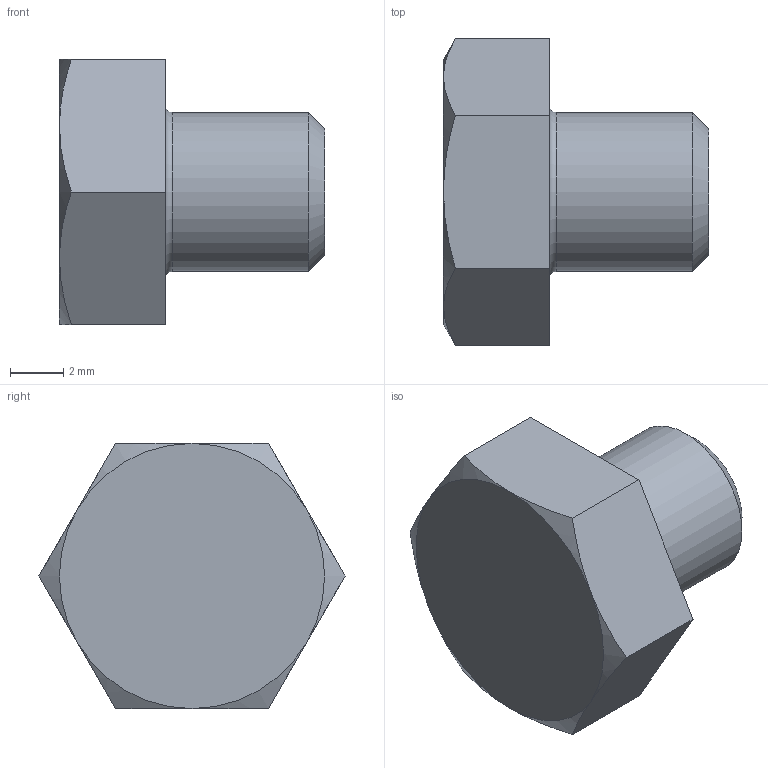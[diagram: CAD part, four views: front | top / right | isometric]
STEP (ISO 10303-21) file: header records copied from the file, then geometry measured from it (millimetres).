
FILE_DESCRIPTION(/* description */ ('6각 머리 볼트 및 6각 머리 나사'),/* implementation_level */ '2;1');
FILE_NAME(/* name */ '',/* time_stamp */ '2025-01-06T15:37:22+09:00',/* author */ ('jhkim'),/* organization */ (''),/* preprocessor_version */ 'ST-DEVELOPER v20',/* originating_system */ 'Autodesk Inventor 2025',/* authorisation */ '');
FILE_SCHEMA (('AUTOMOTIVE_DESIGN { 1 0 10303 214 3 1 1 }'));
Length unit declared in the file: millimetre
Products named in the file (1): 육각 머리 볼트 M6x0.
75x6
Bounding box: 10 x 11.55 x 10 mm (x, y, z)
Volume: 511.9 mm3; surface area: 411.5 mm2
Topology: 1 solids, 1 shells, 18 faces, 39 edges, 24 vertices
Faces by surface type: plane 9, cone 7, torus 1, cylinder 1
Full cylindrical faces by diameter (mm): 6 x1
Entity records: 519 total; most frequent: CARTESIAN_POINT 106, ORIENTED_EDGE 78, DIRECTION 78, EDGE_CURVE 39, AXIS2_PLACEMENT_3D 32, VERTEX_POINT 24, EDGE_LOOP 19, FACE_OUTER_BOUND 18
